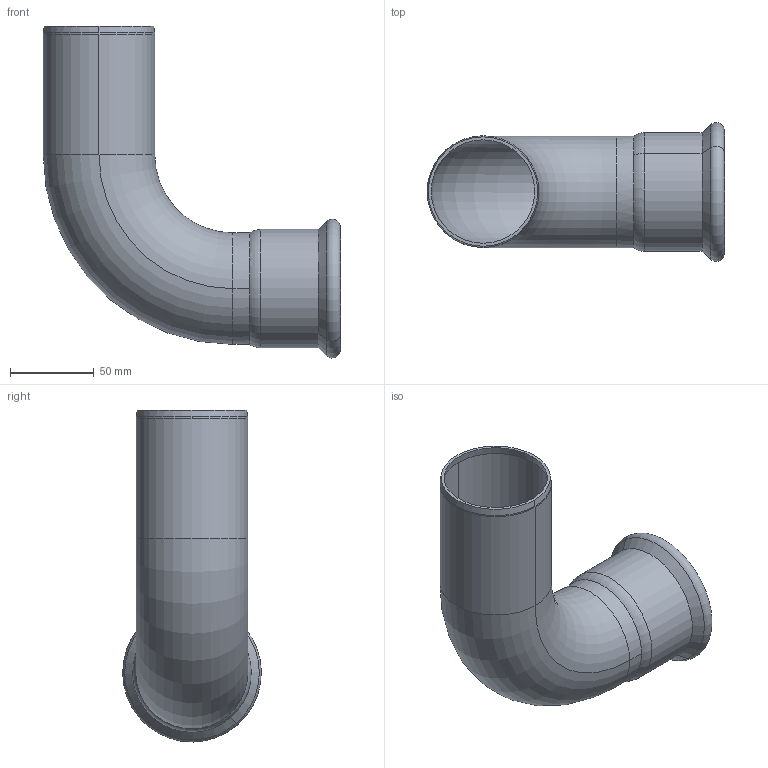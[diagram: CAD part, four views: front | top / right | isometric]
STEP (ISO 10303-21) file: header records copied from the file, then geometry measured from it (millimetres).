
FILE_DESCRIPTION(('CoCreate Modeling STEP Export'),'2;1');
FILE_NAME('C1411 67x67.stp','2014-10-23T15:52:32',(''),(''),'CoCreate Modeling STEP processor for AP214 (Solid Model)','CoCreate Modeling 17.00A 17-Jun-2010 (C) Parametric Technology GmbH','');
FILE_SCHEMA(('AUTOMOTIVE_DESIGN { 1 0 10303 214 1 1 1 1 }'));
Length unit declared in the file: millimetre
Products named in the file (1): BOCHT_90PR_67mm
Bounding box: 177.89 x 82.91 x 198.46 mm (x, y, z)
Volume: 111928 mm3; surface area: 113382.5 mm2
Topology: 1 solids, 1 shells, 45 faces, 110 edges, 68 vertices
Faces by surface type: cylinder 16, cone 14, torus 12, plane 3
Entity records: 1067 total; most frequent: ORIENTED_EDGE 220, CARTESIAN_POINT 161, DIRECTION 156, EDGE_CURVE 110, VERTEX_POINT 68, AXIS2_PLACEMENT_3D 63, EDGE_LOOP 48, FACE_OUTER_BOUND 45
